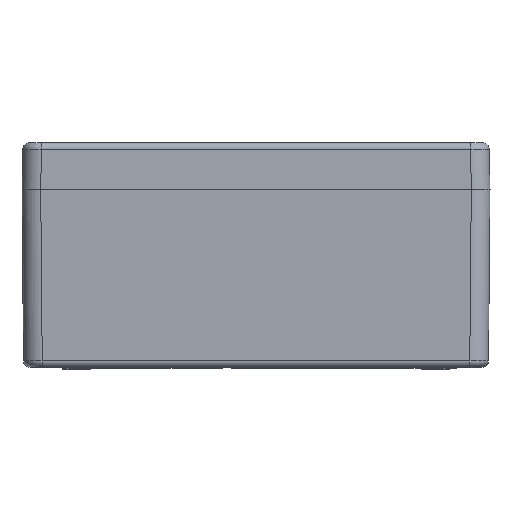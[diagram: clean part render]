
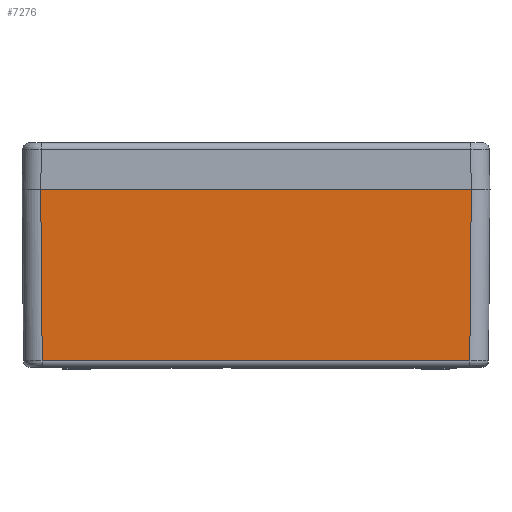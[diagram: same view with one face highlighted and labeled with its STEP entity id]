
A CAD part, left-side view. The second image highlights one B-rep face of the part: STEP entity #7276.
In plain terms, the highlighted planar face has unit normal (-1, 0, -0.009).
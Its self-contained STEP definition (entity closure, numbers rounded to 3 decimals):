
#197 = PLANE ( 'NONE',  #19744 ) ;
#2612 = CARTESIAN_POINT ( 'NONE',  ( -199.201, -114.202, -91.531 ) ) ;
#2836 = VERTEX_POINT ( 'NONE', #13209 ) ;
#2837 = VERTEX_POINT ( 'NONE', #31126 ) ;
#3345 = EDGE_CURVE ( 'NONE', #2836, #30560, #31335, .T. ) ;
#5421 = CARTESIAN_POINT ( 'NONE',  ( -200., -125., 0. ) ) ;
#7017 = DIRECTION ( 'NONE',  ( 0., 1., 0. ) ) ;
#7276 = ADVANCED_FACE ( 'NONE', ( #20906 ), #197, .T. ) ;
#10337 = DIRECTION ( 'NONE',  ( -0.009, 0., 1. ) ) ;
#11534 = LINE ( 'NONE', #19972, #19106 ) ;
#11876 = EDGE_CURVE ( 'NONE', #14321, #2837, #11534, .T. ) ;
#11922 = ORIENTED_EDGE ( 'NONE', *, *, #3345, .T. ) ;
#12198 = VECTOR ( 'NONE', #28206, 1000. ) ;
#12255 = LINE ( 'NONE', #24263, #17797 ) ;
#13209 = CARTESIAN_POINT ( 'NONE',  ( -199.201, -114.202, -91.531 ) ) ;
#14156 = DIRECTION ( 'NONE',  ( 0., 1., 0. ) ) ;
#14321 = VERTEX_POINT ( 'NONE', #24293 ) ;
#15571 = DIRECTION ( 'NONE',  ( -1., 0., -0.009 ) ) ;
#17797 = VECTOR ( 'NONE', #14156, 1000. ) ;
#19106 = VECTOR ( 'NONE', #27726, 1000. ) ;
#19738 = EDGE_CURVE ( 'NONE', #2836, #14321, #32000, .T. ) ;
#19744 = AXIS2_PLACEMENT_3D ( 'NONE', #5421, #15571, #10337 ) ;
#19972 = CARTESIAN_POINT ( 'NONE',  ( -199.982, 114.982, -2.094 ) ) ;
#20906 = FACE_OUTER_BOUND ( 'NONE', #25211, .T. ) ;
#21809 = ORIENTED_EDGE ( 'NONE', *, *, #22349, .T. ) ;
#22144 = CARTESIAN_POINT ( 'NONE',  ( -199.201, 125., -91.531 ) ) ;
#22349 = EDGE_CURVE ( 'NONE', #30560, #2837, #12255, .T. ) ;
#24263 = CARTESIAN_POINT ( 'NONE',  ( -200., -125., 0. ) ) ;
#24293 = CARTESIAN_POINT ( 'NONE',  ( -199.201, 114.202, -91.531 ) ) ;
#25211 = EDGE_LOOP ( 'NONE', ( #11922, #21809, #32285, #25659 ) ) ;
#25659 = ORIENTED_EDGE ( 'NONE', *, *, #19738, .F. ) ;
#27726 = DIRECTION ( 'NONE',  ( -0.009, 0.009, 1. ) ) ;
#27983 = VECTOR ( 'NONE', #7017, 1000. ) ;
#28206 = DIRECTION ( 'NONE',  ( -0.009, -0.009, 1. ) ) ;
#30560 = VERTEX_POINT ( 'NONE', #30702 ) ;
#30702 = CARTESIAN_POINT ( 'NONE',  ( -200., -115., 0. ) ) ;
#31126 = CARTESIAN_POINT ( 'NONE',  ( -200., 115., 0. ) ) ;
#31335 = LINE ( 'NONE', #2612, #12198 ) ;
#32000 = LINE ( 'NONE', #22144, #27983 ) ;
#32285 = ORIENTED_EDGE ( 'NONE', *, *, #11876, .F. ) ;
